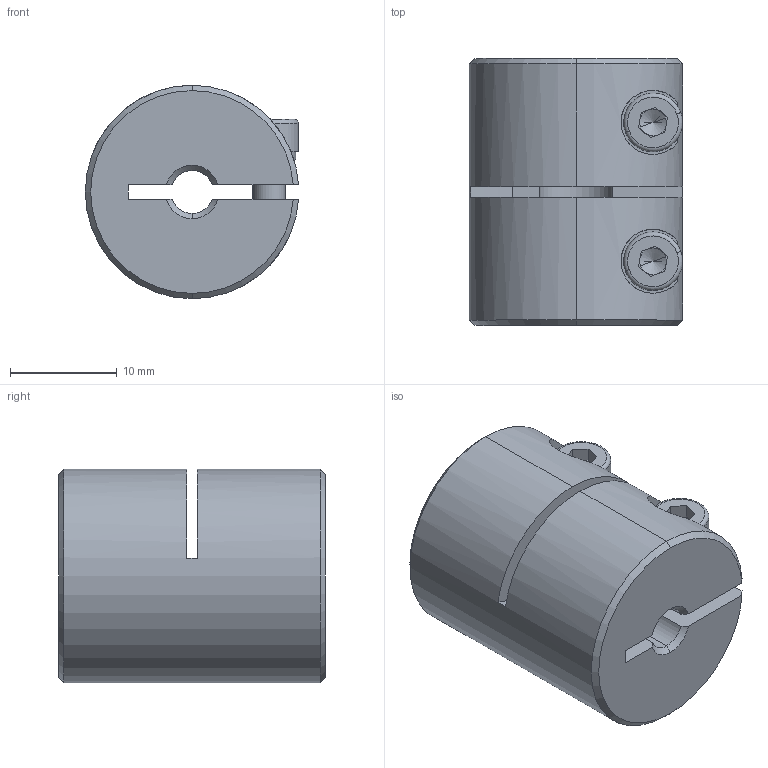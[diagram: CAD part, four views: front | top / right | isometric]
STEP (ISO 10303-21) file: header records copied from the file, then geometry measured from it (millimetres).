
FILE_DESCRIPTION (( 'STEP AP203' ), '1' );
FILE_NAME ('LL-B-D20L25-4-7.STEP', '2021-11-05T03:26:57', ( '' ), ( '' ), 'SwSTEP 2.0', 'SolidWorks 2018', '' );
FILE_SCHEMA (( 'CONFIG_CONTROL_DESIGN' ));
Length unit declared in the file: millimetre
Products named in the file (1): LL-B-D20L25-4-7
Bounding box: 19.98 x 25 x 20 mm (x, y, z)
Volume: 6610.8 mm3; surface area: 3625.7 mm2
Topology: 1 solids, 1 shells, 116 faces, 300 edges, 188 vertices
Faces by surface type: plane 53, cylinder 43, cone 16, torus 4
Entity records: 3789 total; most frequent: CARTESIAN_POINT 835, DIRECTION 630, ORIENTED_EDGE 592, EDGE_CURVE 296, AXIS2_PLACEMENT_3D 243, VERTEX_POINT 188, LINE 144, VECTOR 144
